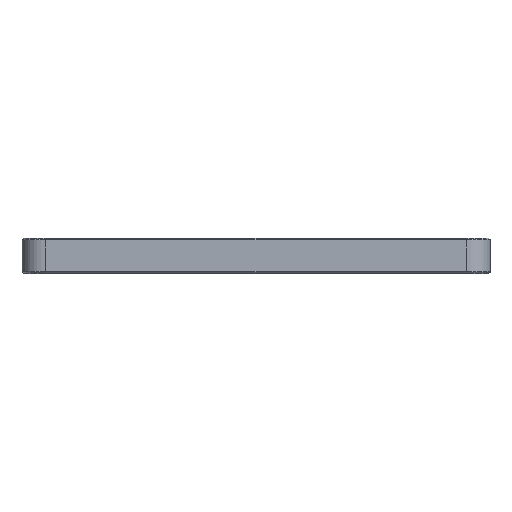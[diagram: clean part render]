
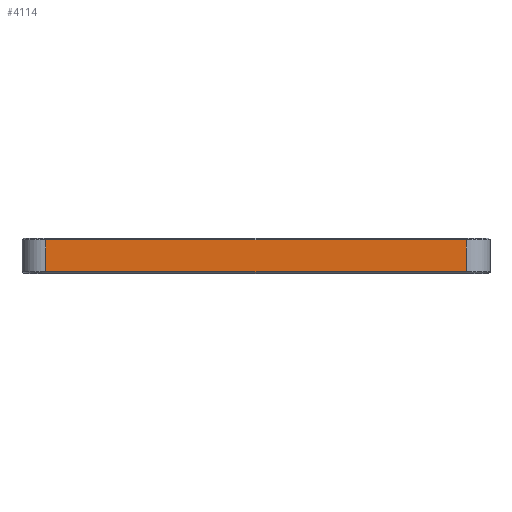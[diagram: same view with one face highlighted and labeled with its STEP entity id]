
A CAD part, top view. The second image highlights one B-rep face of the part: STEP entity #4114.
In plain terms, the highlighted planar face has unit normal (0, 0, 1).
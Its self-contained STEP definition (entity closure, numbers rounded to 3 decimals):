
#80 = VECTOR ( 'NONE', #2691, 1000. ) ;
#86 = ORIENTED_EDGE ( 'NONE', *, *, #2434, .T. ) ;
#179 = DIRECTION ( 'NONE',  ( 1., 0., 0. ) ) ;
#481 = DIRECTION ( 'NONE',  ( 0., -1., 0. ) ) ;
#492 = LINE ( 'NONE', #2289, #1914 ) ;
#502 = CARTESIAN_POINT ( 'NONE',  ( 35.8, 0.3, 30. ) ) ;
#738 = CARTESIAN_POINT ( 'NONE',  ( -35.8, 0.3, 30. ) ) ;
#884 = ORIENTED_EDGE ( 'NONE', *, *, #2694, .T. ) ;
#907 = LINE ( 'NONE', #2383, #4155 ) ;
#1133 = PLANE ( 'NONE',  #2931 ) ;
#1139 = VERTEX_POINT ( 'NONE', #2371 ) ;
#1436 = VERTEX_POINT ( 'NONE', #1737 ) ;
#1603 = CARTESIAN_POINT ( 'NONE',  ( -35.8, 0., 30. ) ) ;
#1737 = CARTESIAN_POINT ( 'NONE',  ( -35.8, 5.7, 30. ) ) ;
#1914 = VECTOR ( 'NONE', #3754, 1000. ) ;
#2289 = CARTESIAN_POINT ( 'NONE',  ( 0., 5.7, 30. ) ) ;
#2304 = VECTOR ( 'NONE', #481, 1000. ) ;
#2371 = CARTESIAN_POINT ( 'NONE',  ( 35.8, 5.7, 30. ) ) ;
#2383 = CARTESIAN_POINT ( 'NONE',  ( 35.8, 0.3, 30. ) ) ;
#2394 = VERTEX_POINT ( 'NONE', #502 ) ;
#2421 = ORIENTED_EDGE ( 'NONE', *, *, #2684, .T. ) ;
#2434 = EDGE_CURVE ( 'NONE', #1436, #3252, #3746, .T. ) ;
#2643 = EDGE_CURVE ( 'NONE', #2394, #1139, #3466, .T. ) ;
#2684 = EDGE_CURVE ( 'NONE', #1139, #1436, #492, .T. ) ;
#2691 = DIRECTION ( 'NONE',  ( 0., 1., 0. ) ) ;
#2694 = EDGE_CURVE ( 'NONE', #3252, #2394, #907, .T. ) ;
#2931 = AXIS2_PLACEMENT_3D ( 'NONE', #4703, #4345, #3667 ) ;
#3226 = FACE_OUTER_BOUND ( 'NONE', #4259, .T. ) ;
#3252 = VERTEX_POINT ( 'NONE', #738 ) ;
#3466 = LINE ( 'NONE', #4153, #80 ) ;
#3667 = DIRECTION ( 'NONE',  ( 1., 0., 0. ) ) ;
#3746 = LINE ( 'NONE', #1603, #2304 ) ;
#3754 = DIRECTION ( 'NONE',  ( -1., 0., 0. ) ) ;
#4114 = ADVANCED_FACE ( 'NONE', ( #3226 ), #1133, .T. ) ;
#4125 = ORIENTED_EDGE ( 'NONE', *, *, #2643, .T. ) ;
#4153 = CARTESIAN_POINT ( 'NONE',  ( 35.8, 6., 30. ) ) ;
#4155 = VECTOR ( 'NONE', #179, 1000. ) ;
#4259 = EDGE_LOOP ( 'NONE', ( #4125, #2421, #86, #884 ) ) ;
#4345 = DIRECTION ( 'NONE',  ( 0., 0., 1. ) ) ;
#4703 = CARTESIAN_POINT ( 'NONE',  ( 0., 6., 30. ) ) ;
